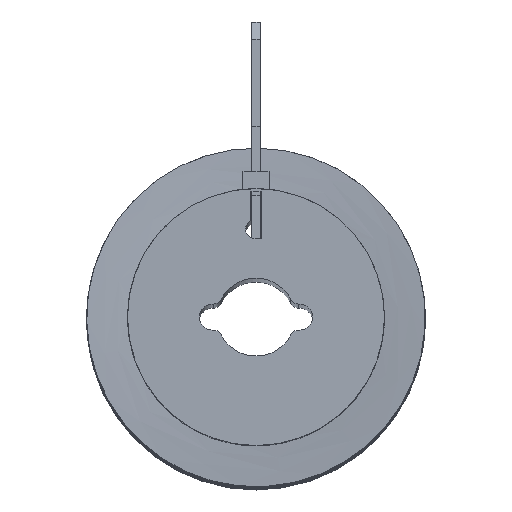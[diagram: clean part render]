
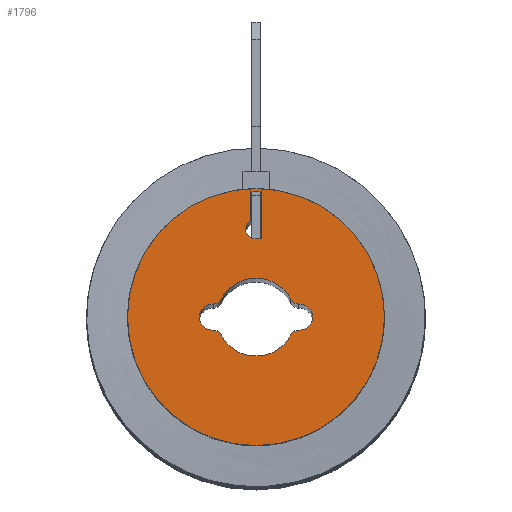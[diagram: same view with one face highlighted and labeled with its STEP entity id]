
A CAD part, top view. The second image highlights one B-rep face of the part: STEP entity #1796.
In plain terms, the highlighted planar face has unit normal (0, 0, 1).
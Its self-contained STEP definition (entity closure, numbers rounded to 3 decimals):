
#26=FACE_BOUND($,#279,.T.);
#27=FACE_BOUND($,#280,.T.);
#38=CIRCLE($,#1821,14.5);
#42=CIRCLE($,#1827,14.8);
#73=CIRCLE($,#1923,1.1);
#74=CIRCLE($,#1926,4.5);
#75=CIRCLE($,#1927,1.);
#76=CIRCLE($,#1928,1.5);
#77=CIRCLE($,#1929,1.);
#78=CIRCLE($,#1930,4.5);
#79=CIRCLE($,#1931,1.);
#80=CIRCLE($,#1932,1.5);
#81=CIRCLE($,#1933,1.);
#183=FACE_OUTER_BOUND($,#278,.T.);
#278=EDGE_LOOP($,(#1511));
#279=EDGE_LOOP($,(#1512,#1513,#1514,#1515,#1516));
#280=EDGE_LOOP($,(#1517,#1518,#1519,#1520,#1521,#1522,#1523,#1524));
#439=LINE($,#8489,#623);
#464=LINE($,#8543,#648);
#467=LINE($,#8552,#651);
#623=VECTOR($,#2286,0.7);
#648=VECTOR($,#2349,5.488);
#651=VECTOR($,#2360,3.408);
#686=VERTEX_POINT($,#8167);
#687=VERTEX_POINT($,#8169);
#691=VERTEX_POINT($,#8181);
#795=VERTEX_POINT($,#8486);
#796=VERTEX_POINT($,#8488);
#808=VERTEX_POINT($,#8547);
#809=VERTEX_POINT($,#8554);
#810=VERTEX_POINT($,#8555);
#811=VERTEX_POINT($,#8557);
#812=VERTEX_POINT($,#8559);
#813=VERTEX_POINT($,#8561);
#814=VERTEX_POINT($,#8563);
#815=VERTEX_POINT($,#8565);
#816=VERTEX_POINT($,#8567);
#855=EDGE_CURVE($,#687,#686,#38,.T.);
#861=EDGE_CURVE($,#691,#691,#42,.T.);
#1015=EDGE_CURVE($,#796,#795,#439,.T.);
#1043=EDGE_CURVE($,#686,#796,#464,.T.);
#1046=EDGE_CURVE($,#795,#808,#73,.T.);
#1048=EDGE_CURVE($,#808,#687,#467,.T.);
#1049=EDGE_CURVE($,#809,#810,#74,.T.);
#1050=EDGE_CURVE($,#810,#811,#75,.T.);
#1051=EDGE_CURVE($,#811,#812,#76,.T.);
#1052=EDGE_CURVE($,#812,#813,#77,.T.);
#1053=EDGE_CURVE($,#813,#814,#78,.T.);
#1054=EDGE_CURVE($,#814,#815,#79,.T.);
#1055=EDGE_CURVE($,#815,#816,#80,.T.);
#1056=EDGE_CURVE($,#816,#809,#81,.T.);
#1511=ORIENTED_EDGE($,*,*,#861,.T.);
#1512=ORIENTED_EDGE($,*,*,#1048,.T.);
#1513=ORIENTED_EDGE($,*,*,#855,.T.);
#1514=ORIENTED_EDGE($,*,*,#1043,.T.);
#1515=ORIENTED_EDGE($,*,*,#1015,.T.);
#1516=ORIENTED_EDGE($,*,*,#1046,.T.);
#1517=ORIENTED_EDGE($,*,*,#1049,.T.);
#1518=ORIENTED_EDGE($,*,*,#1050,.T.);
#1519=ORIENTED_EDGE($,*,*,#1051,.T.);
#1520=ORIENTED_EDGE($,*,*,#1052,.T.);
#1521=ORIENTED_EDGE($,*,*,#1053,.T.);
#1522=ORIENTED_EDGE($,*,*,#1054,.T.);
#1523=ORIENTED_EDGE($,*,*,#1055,.T.);
#1524=ORIENTED_EDGE($,*,*,#1056,.T.);
#1635=PLANE($,#1925);
#1796=ADVANCED_FACE($,(#183,#26,#27),#1635,.T.);
#1821=AXIS2_PLACEMENT_3D($,#8170,#1995,#1996);
#1827=AXIS2_PLACEMENT_3D($,#8182,#2009,#2010);
#1923=AXIS2_PLACEMENT_3D($,#8549,#2355,#2356);
#1925=AXIS2_PLACEMENT_3D($,#8553,#2361,#2362);
#1926=AXIS2_PLACEMENT_3D($,#8556,#2363,#2364);
#1927=AXIS2_PLACEMENT_3D($,#8558,#2365,#2366);
#1928=AXIS2_PLACEMENT_3D($,#8560,#2367,#2368);
#1929=AXIS2_PLACEMENT_3D($,#8562,#2369,#2370);
#1930=AXIS2_PLACEMENT_3D($,#8564,#2371,#2372);
#1931=AXIS2_PLACEMENT_3D($,#8566,#2373,#2374);
#1932=AXIS2_PLACEMENT_3D($,#8568,#2375,#2376);
#1933=AXIS2_PLACEMENT_3D($,#8569,#2377,#2378);
#1995=DIRECTION('center_axis',(0.,0.,
-1.));
#1996=DIRECTION('ref_axis',(-1.,0.,0.));
#2009=DIRECTION('center_axis',(0.,0.,
1.));
#2010=DIRECTION('ref_axis',(-1.,0.,0.));
#2286=DIRECTION($,(-1.,0.,0.));
#2349=DIRECTION($,(0.,-1.,0.));
#2355=DIRECTION('center_axis',(0.,0.,-1.));
#2356=DIRECTION('ref_axis',(0.455,-0.891,0.));
#2360=DIRECTION($,(0.,1.,0.));
#2361=DIRECTION('center_axis',(0.,0.,1.));
#2362=DIRECTION('ref_axis',(1.,0.,0.));
#2363=DIRECTION('center_axis',(0.,0.,-1.));
#2364=DIRECTION('ref_axis',(0.891,0.454,0.));
#2365=DIRECTION('center_axis',(0.,0.,1.));
#2366=DIRECTION('ref_axis',(0.891,0.454,0.));
#2367=DIRECTION('center_axis',(0.,0.,-1.));
#2368=DIRECTION('ref_axis',(-0.04,-0.999,0.));
#2369=DIRECTION('center_axis',(0.,0.,1.));
#2370=DIRECTION('ref_axis',(-0.04,-0.999,0.));
#2371=DIRECTION('center_axis',(0.,0.,-1.));
#2372=DIRECTION('ref_axis',(-0.891,-0.454,0.));
#2373=DIRECTION('center_axis',(0.,0.,1.));
#2374=DIRECTION('ref_axis',(-0.891,-0.454,0.));
#2375=DIRECTION('center_axis',(0.,0.,-1.));
#2376=DIRECTION('ref_axis',(0.04,0.999,0.));
#2377=DIRECTION('center_axis',(0.,0.,1.));
#2378=DIRECTION('ref_axis',(0.04,0.999,0.));
#8167=CARTESIAN_POINT('',(0.6,14.488,132.5));
#8169=CARTESIAN_POINT('',(-0.6,14.488,132.5));
#8170=CARTESIAN_POINT('Origin',(0.,0.,
132.5));
#8181=CARTESIAN_POINT('',(14.8,0.,132.5));
#8182=CARTESIAN_POINT('Origin',(0.,0.,
132.5));
#8486=CARTESIAN_POINT('',(-0.1,9.,132.5));
#8488=CARTESIAN_POINT('',(0.6,9.,132.5));
#8489=CARTESIAN_POINT($,(-0.05,9.,132.5));
#8543=CARTESIAN_POINT($,(0.6,4.5,132.5));
#8547=CARTESIAN_POINT('',(-0.6,11.08,132.5));
#8549=CARTESIAN_POINT('Origin',(-0.1,10.1,132.5));
#8552=CARTESIAN_POINT($,(-0.6,7.244,132.5));
#8553=CARTESIAN_POINT('Origin',(0.,0.,132.5));
#8554=CARTESIAN_POINT('',(-4.009,2.044,132.5));
#8555=CARTESIAN_POINT('',(4.009,2.044,132.5));
#8556=CARTESIAN_POINT('Origin',(0.,0.,132.5));
#8557=CARTESIAN_POINT('',(4.94,1.499,132.5));
#8558=CARTESIAN_POINT('Origin',(4.9,2.498,132.5));
#8559=CARTESIAN_POINT('',(4.94,-1.499,132.5));
#8560=CARTESIAN_POINT('Origin',(5.,0.,132.5));
#8561=CARTESIAN_POINT('',(4.009,-2.044,132.5));
#8562=CARTESIAN_POINT('Origin',(4.9,-2.498,132.5));
#8563=CARTESIAN_POINT('',(-4.009,-2.044,132.5));
#8564=CARTESIAN_POINT('Origin',(0.,0.,132.5));
#8565=CARTESIAN_POINT('',(-4.94,-1.499,132.5));
#8566=CARTESIAN_POINT('Origin',(-4.9,-2.498,132.5));
#8567=CARTESIAN_POINT('',(-4.94,1.499,132.5));
#8568=CARTESIAN_POINT('Origin',(-5.,0.,132.5));
#8569=CARTESIAN_POINT('Origin',(-4.9,2.498,132.5));
